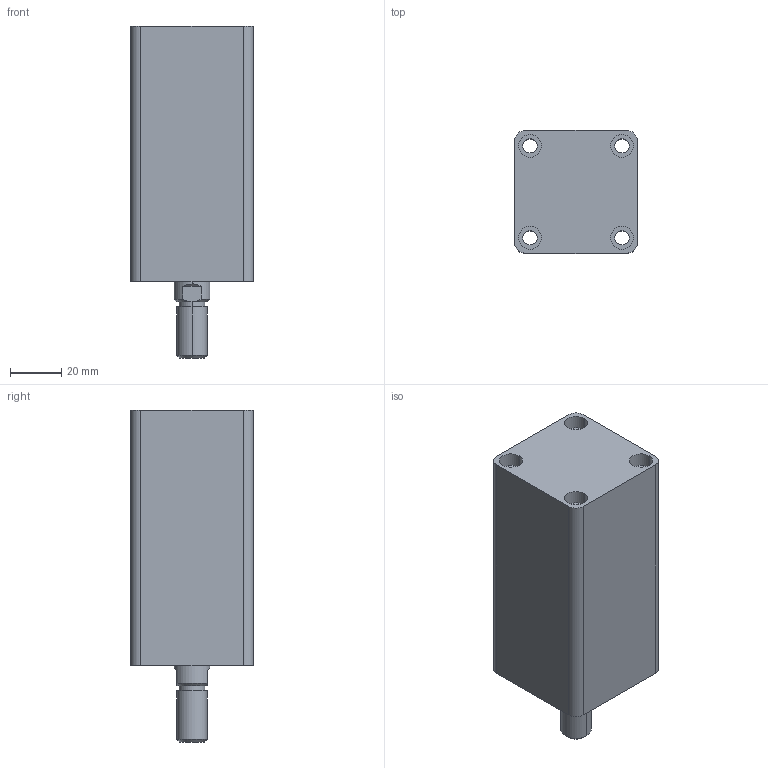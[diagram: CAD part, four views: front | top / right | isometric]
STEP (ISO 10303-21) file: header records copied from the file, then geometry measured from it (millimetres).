
FILE_DESCRIPTION (( 'STEP AP203' ), '1' );
FILE_NAME ('HTB-SD25-55W.STEP', '2019-10-07T06:11:39', ( '微软用户' ), ( '微软中国' ), 'SwSTEP 2.0', 'SolidWorks 2012', '' );
FILE_SCHEMA (( 'CONFIG_CONTROL_DESIGN' ));
Length unit declared in the file: millimetre
Products named in the file (3): HTB-SD25-55掛极; HTB-SD25-55W活塞杆; HTB-SD25-55W
Assembly tree (2 placements, depth 2):
  HTB-SD25-55W
    HTB-SD25-55掛极
    HTB-SD25-55W活塞杆
Bounding box: 48 x 48 x 130 mm (x, y, z)
Volume: 201477.5 mm3; surface area: 44693.5 mm2
Topology: 2 solids, 2 shells, 87 faces, 188 edges, 122 vertices
Faces by surface type: cylinder 44, plane 29, cone 8, torus 6
Entity records: 2759 total; most frequent: DIRECTION 476, CARTESIAN_POINT 446, ORIENTED_EDGE 376, AXIS2_PLACEMENT_3D 204, EDGE_CURVE 188, VERTEX_POINT 122, CIRCLE 112, EDGE_LOOP 112
